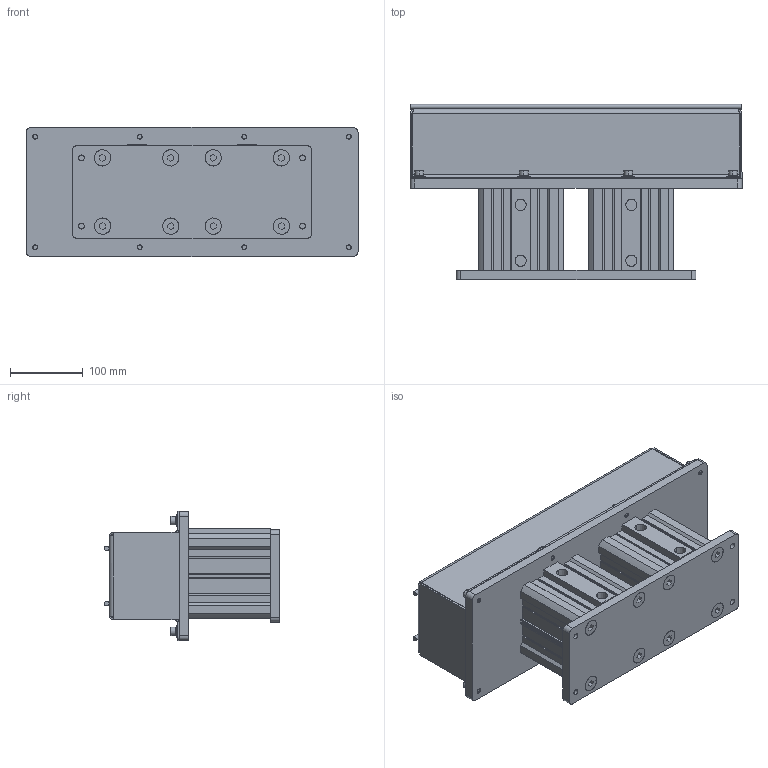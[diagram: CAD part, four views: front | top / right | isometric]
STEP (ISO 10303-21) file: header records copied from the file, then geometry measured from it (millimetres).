
FILE_DESCRIPTION (( 'STEP AP203' ), '1' );
FILE_NAME ('ARF18.STEP', '2021-01-19T13:51:01', ( '' ), ( '' ), 'SwSTEP 2.0', 'SolidWorks 2018', '' );
FILE_SCHEMA (( 'CONFIG_CONTROL_DESIGN' ));
Length unit declared in the file: inch
Products named in the file (1): ARF18
Bounding box: 457.2 x 241.1 x 177.8 mm (x, y, z)
Volume: 3659533.3 mm3; surface area: 1162187.2 mm2
Topology: 36 solids, 36 shells, 2006 faces, 4380 edges, 2504 vertices
Faces by surface type: cone 760, cylinder 688, plane 502, torus 48, bspline 8
Entity records: 54437 total; most frequent: DIRECTION 10206, CARTESIAN_POINT 9347, ORIENTED_EDGE 8760, EDGE_CURVE 4380, AXIS2_PLACEMENT_3D 3855, VERTEX_POINT 2504, VECTOR 2496, LINE 2496
